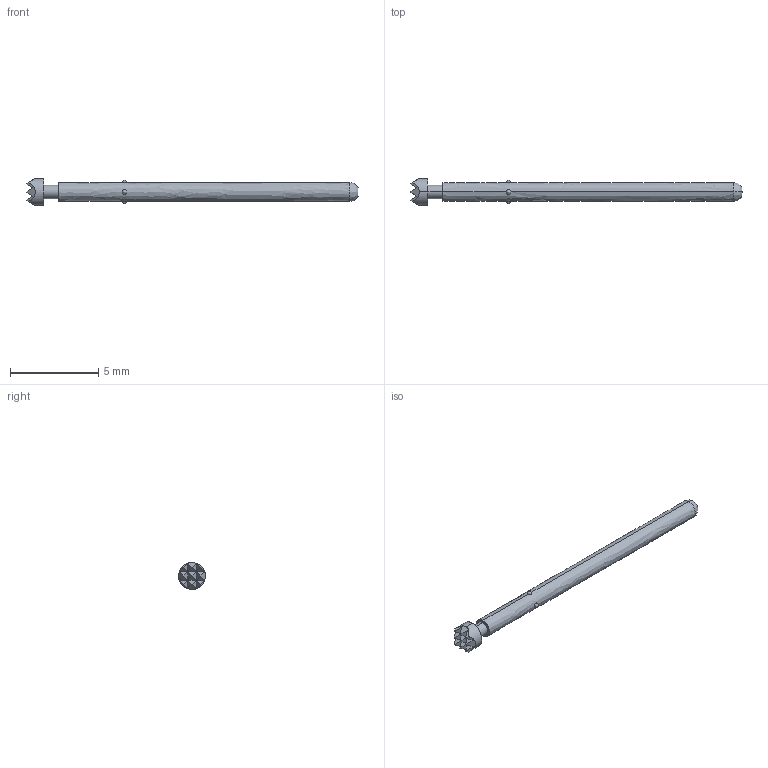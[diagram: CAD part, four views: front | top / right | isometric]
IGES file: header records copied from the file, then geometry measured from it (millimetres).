
Start section: SolidWorks IGES file using analytic representation for surfaces
Global section: file name: O:\PYLON\IGES FILES\P2663\P2663G-1W1S REC'D.IGS; native system: SolidWorks 2015; preprocessor: SolidWorks 2015; author: kgolden; date: 171019.105717; units: inch
Bounding box: 18.82 x 1.52 x 1.52 mm (x, y, z)
Surface area: 72.3 mm2 (no closed solid volume)
Topology: 0 solids, 0 shells, 49 faces, 402 edges, 386 vertices
Faces by surface type: bspline 33, revolution 16
